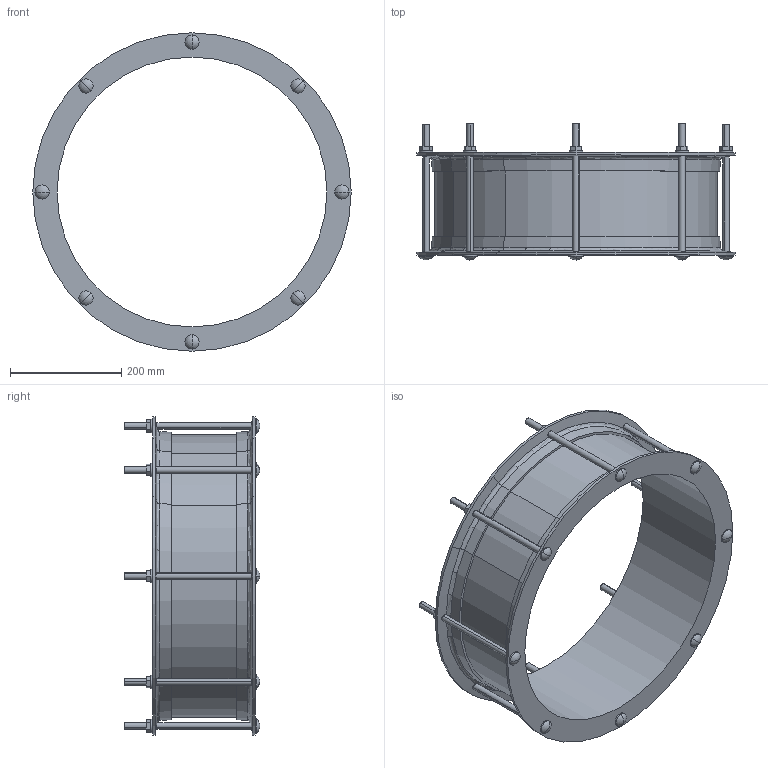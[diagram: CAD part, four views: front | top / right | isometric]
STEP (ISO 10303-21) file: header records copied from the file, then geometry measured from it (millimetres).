
FILE_DESCRIPTION((''),'2;1');
FILE_NAME('LO2_COUP_480','2018-12-06T',('mfairey'),('Glynwed Pipe Systems'),'CREO PARAMETRIC BY PTC INC, 2016130','CREO PARAMETRIC BY PTC INC, 2016130','');
FILE_SCHEMA(('CONFIG_CONTROL_DESIGN'));
Length unit declared in the file: millimetre
Products named in the file (1): LO2_COUP_480
Bounding box: 571.2 x 243.33 x 571.2 mm (x, y, z)
Volume: 4622238.5 mm3; surface area: 880464.5 mm2
Topology: 1 solids, 1 shells, 176 faces, 464 edges, 292 vertices
Faces by surface type: plane 76, cylinder 72, sphere 16, cone 8, torus 4
Entity records: 6078 total; most frequent: CARTESIAN_POINT 1716, DIRECTION 896, ORIENTED_EDGE 896, EDGE_CURVE 448, AXIS2_PLACEMENT_3D 336, VERTEX_POINT 292, VECTOR 224, LINE 224
